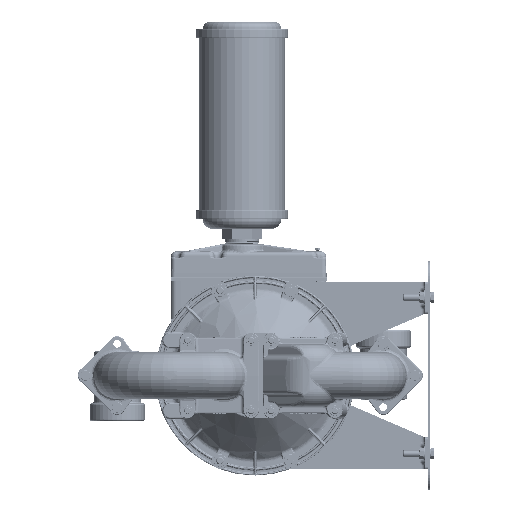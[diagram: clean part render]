
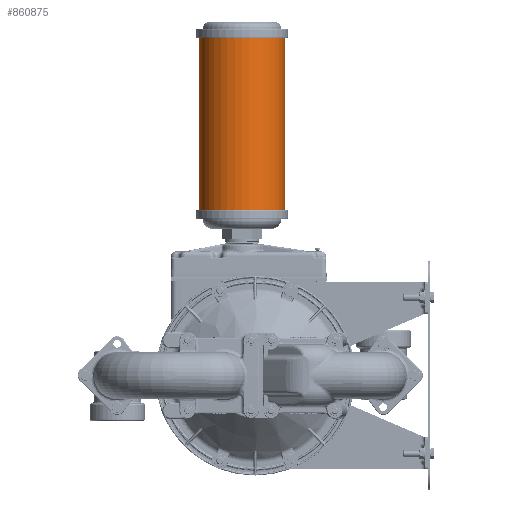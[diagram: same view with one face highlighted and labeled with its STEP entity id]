
A CAD part, left-side view. The second image highlights one B-rep face of the part: STEP entity #860875.
In plain terms, the highlighted cylindrical face has radius 61.722 mm (diameter 123.444 mm), a partial arc.
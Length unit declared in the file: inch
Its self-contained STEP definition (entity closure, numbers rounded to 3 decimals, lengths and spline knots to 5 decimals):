
#12328 = VECTOR ( 'NONE', #354735, 39.37008 ) ;
#26566 = EDGE_CURVE ( 'NONE', #796121, #637962, #183976, .T. ) ;
#60742 = CARTESIAN_POINT ( 'NONE',  ( 0., -1.68, 9.392 ) ) ;
#69753 = VERTEX_POINT ( 'NONE', #195862 ) ;
#90812 = AXIS2_PLACEMENT_3D ( 'NONE', #182918, #458186, #388237 ) ;
#149081 = CARTESIAN_POINT ( 'NONE',  ( 0., 0.75, 20.6595 ) ) ;
#170221 = AXIS2_PLACEMENT_3D ( 'NONE', #494628, #704385, #498911 ) ;
#175015 = ORIENTED_EDGE ( 'NONE', *, *, #586973, .F. ) ;
#182918 = CARTESIAN_POINT ( 'NONE',  ( 0., 0.75, 9.392 ) ) ;
#183976 = CIRCLE ( 'NONE', #170221, 2.43 ) ;
#195862 = CARTESIAN_POINT ( 'NONE',  ( 0., -1.68, 9.392 ) ) ;
#201512 = VECTOR ( 'NONE', #668408, 39.37008 ) ;
#263966 = VERTEX_POINT ( 'NONE', #670576 ) ;
#289572 = CARTESIAN_POINT ( 'NONE',  ( 0., -1.68, 19.172 ) ) ;
#313947 = EDGE_CURVE ( 'NONE', #69753, #637962, #791084, .T. ) ;
#354735 = DIRECTION ( 'NONE',  ( 0., 0., 1. ) ) ;
#388237 = DIRECTION ( 'NONE',  ( 0., 1., 0. ) ) ;
#394576 = ORIENTED_EDGE ( 'NONE', *, *, #26566, .F. ) ;
#415740 = DIRECTION ( 'NONE',  ( 0., 0., -1. ) ) ;
#442502 = AXIS2_PLACEMENT_3D ( 'NONE', #149081, #415740, #732104 ) ;
#458186 = DIRECTION ( 'NONE',  ( 0., 0., 1. ) ) ;
#467791 = CIRCLE ( 'NONE', #90812, 2.43 ) ;
#493675 = ORIENTED_EDGE ( 'NONE', *, *, #813412, .T. ) ;
#494628 = CARTESIAN_POINT ( 'NONE',  ( 0., 0.75, 19.172 ) ) ;
#495720 = CARTESIAN_POINT ( 'NONE',  ( 0., 3.18, 19.172 ) ) ;
#498911 = DIRECTION ( 'NONE',  ( 0., 1., 0. ) ) ;
#535219 = CYLINDRICAL_SURFACE ( 'NONE', #442502, 2.43 ) ;
#586973 = EDGE_CURVE ( 'NONE', #263966, #796121, #818458, .T. ) ;
#625848 = CARTESIAN_POINT ( 'NONE',  ( 0., 3.18, 9.392 ) ) ;
#637962 = VERTEX_POINT ( 'NONE', #289572 ) ;
#668408 = DIRECTION ( 'NONE',  ( 0., 0., 1. ) ) ;
#670576 = CARTESIAN_POINT ( 'NONE',  ( 0., 3.18, 9.392 ) ) ;
#691710 = ORIENTED_EDGE ( 'NONE', *, *, #313947, .T. ) ;
#704385 = DIRECTION ( 'NONE',  ( 0., 0., 1. ) ) ;
#732104 = DIRECTION ( 'NONE',  ( 0., -1., 0. ) ) ;
#749361 = EDGE_LOOP ( 'NONE', ( #493675, #691710, #394576, #175015 ) ) ;
#791084 = LINE ( 'NONE', #60742, #201512 ) ;
#796121 = VERTEX_POINT ( 'NONE', #495720 ) ;
#813412 = EDGE_CURVE ( 'NONE', #263966, #69753, #467791, .T. ) ;
#818458 = LINE ( 'NONE', #625848, #12328 ) ;
#860875 = ADVANCED_FACE ( 'NONE', ( #863279 ), #535219, .T. ) ;
#863279 = FACE_OUTER_BOUND ( 'NONE', #749361, .T. ) ;
